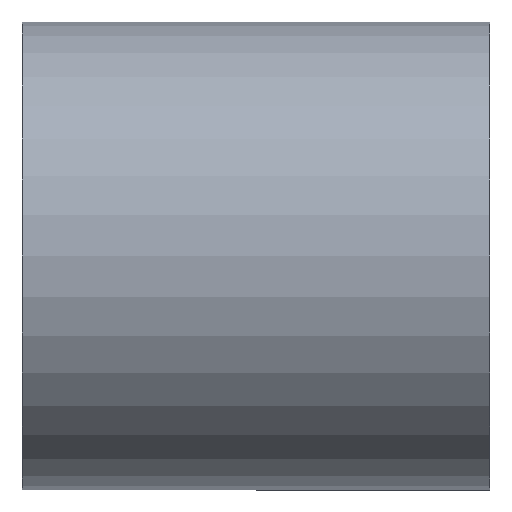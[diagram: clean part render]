
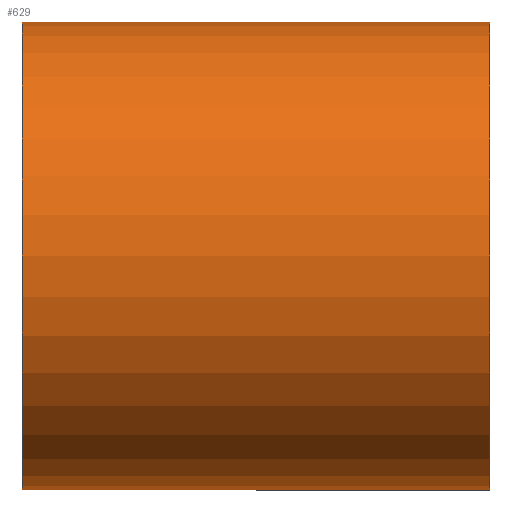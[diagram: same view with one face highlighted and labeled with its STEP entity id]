
A CAD part, front view. The second image highlights one B-rep face of the part: STEP entity #629.
In plain terms, the highlighted cylindrical face has radius 20 mm (diameter 40 mm), a partial arc.
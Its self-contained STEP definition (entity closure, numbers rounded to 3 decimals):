
#23 = CARTESIAN_POINT ( 'NONE',  ( 20., 0., -20. ) ) ;
#29 = DIRECTION ( 'NONE',  ( -1., 0., 0. ) ) ;
#90 = VERTEX_POINT ( 'NONE', #23 ) ;
#152 = VECTOR ( 'NONE', #29, 1000. ) ;
#156 = CARTESIAN_POINT ( 'NONE',  ( 0., 0., 20. ) ) ;
#160 = CARTESIAN_POINT ( 'NONE',  ( -20., 0., 0. ) ) ;
#171 = EDGE_CURVE ( 'NONE', #320, #338, #242, .T. ) ;
#216 = EDGE_CURVE ( 'NONE', #90, #820, #235, .T. ) ;
#226 = DIRECTION ( 'NONE',  ( 0., 0., 1. ) ) ;
#235 = LINE ( 'NONE', #304, #152 ) ;
#242 = LINE ( 'NONE', #156, #286 ) ;
#251 = CARTESIAN_POINT ( 'NONE',  ( 20., 0., 20. ) ) ;
#277 = CARTESIAN_POINT ( 'NONE',  ( -20., 0., -20. ) ) ;
#286 = VECTOR ( 'NONE', #372, 1000. ) ;
#291 = CARTESIAN_POINT ( 'NONE',  ( 20., 0., 0. ) ) ;
#300 = CYLINDRICAL_SURFACE ( 'NONE', #843, 20. ) ;
#304 = CARTESIAN_POINT ( 'NONE',  ( 0., 0., -20. ) ) ;
#317 = ORIENTED_EDGE ( 'NONE', *, *, #668, .F. ) ;
#320 = VERTEX_POINT ( 'NONE', #251 ) ;
#321 = CIRCLE ( 'NONE', #691, 20. ) ;
#338 = VERTEX_POINT ( 'NONE', #402 ) ;
#372 = DIRECTION ( 'NONE',  ( -1., 0., 0. ) ) ;
#402 = CARTESIAN_POINT ( 'NONE',  ( -20., 0., 20. ) ) ;
#414 = CIRCLE ( 'NONE', #758, 20. ) ;
#432 = DIRECTION ( 'NONE',  ( 0., 0., 1. ) ) ;
#444 = FACE_OUTER_BOUND ( 'NONE', #569, .T. ) ;
#503 = DIRECTION ( 'NONE',  ( 0., 0., 1. ) ) ;
#561 = DIRECTION ( 'NONE',  ( -1., 0., 0. ) ) ;
#568 = EDGE_CURVE ( 'NONE', #90, #320, #321, .T. ) ;
#569 = EDGE_LOOP ( 'NONE', ( #833, #724, #730, #317 ) ) ;
#629 = ADVANCED_FACE ( 'NONE', ( #444 ), #300, .T. ) ;
#668 = EDGE_CURVE ( 'NONE', #820, #338, #414, .T. ) ;
#691 = AXIS2_PLACEMENT_3D ( 'NONE', #291, #561, #226 ) ;
#720 = DIRECTION ( 'NONE',  ( -1., 0., 0. ) ) ;
#724 = ORIENTED_EDGE ( 'NONE', *, *, #568, .T. ) ;
#730 = ORIENTED_EDGE ( 'NONE', *, *, #171, .T. ) ;
#758 = AXIS2_PLACEMENT_3D ( 'NONE', #160, #720, #432 ) ;
#787 = DIRECTION ( 'NONE',  ( -1., 0., 0. ) ) ;
#820 = VERTEX_POINT ( 'NONE', #277 ) ;
#833 = ORIENTED_EDGE ( 'NONE', *, *, #216, .F. ) ;
#843 = AXIS2_PLACEMENT_3D ( 'NONE', #856, #787, #503 ) ;
#856 = CARTESIAN_POINT ( 'NONE',  ( 0., 0., 0. ) ) ;
